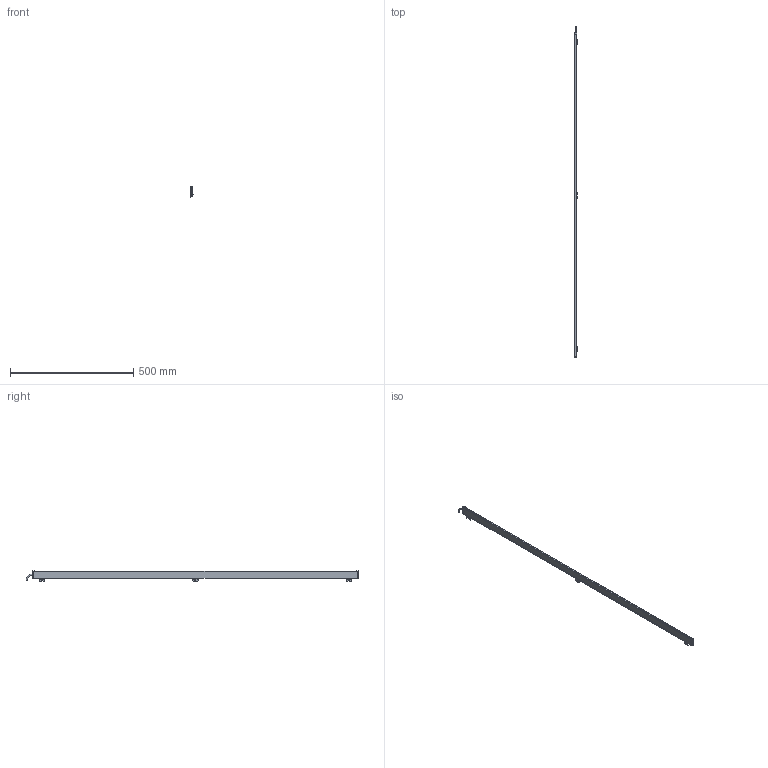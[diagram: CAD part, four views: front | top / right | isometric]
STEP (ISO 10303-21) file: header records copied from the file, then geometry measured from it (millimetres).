
FILE_DESCRIPTION (( 'STEP AP214' ), '1' );
FILE_NAME ('ILG-N-K1-1320mm.STEP', '2017-07-10T13:32:13', ( '' ), ( '' ), 'SwSTEP 2.0', 'SolidWorks 2016', '' );
FILE_SCHEMA (( 'AUTOMOTIVE_DESIGN' ));
Length unit declared in the file: millimetre
Products named in the file (1): ILG-N-K1-1320mm
Bounding box: 10.23 x 1348.25 x 42.41 mm (x, y, z)
Volume: 149879.9 mm3; surface area: 222159.3 mm2
Topology: 12 solids, 12 shells, 532 faces, 1348 edges, 836 vertices
Faces by surface type: plane 296, cylinder 162, cone 64, torus 10
Entity records: 21865 total; most frequent: CARTESIAN_POINT 2865, DIRECTION 2794, ORIENTED_EDGE 2680, EDGE_CURVE 1340, AXIS2_PLACEMENT_3D 973, VECTOR 848, LINE 848, VERTEX_POINT 836
